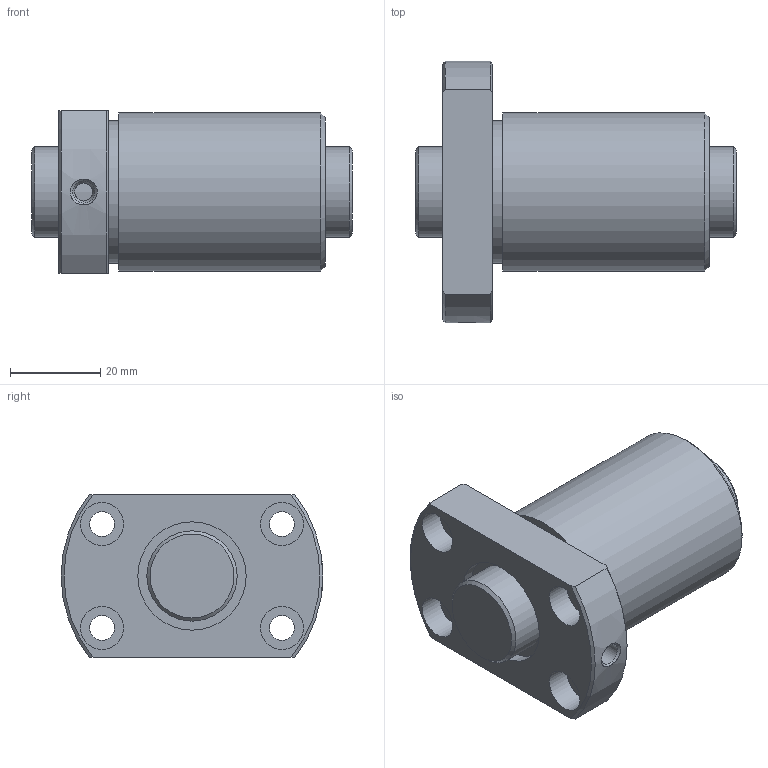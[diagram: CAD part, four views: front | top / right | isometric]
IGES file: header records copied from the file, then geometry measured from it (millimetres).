
Start section: Data from Parasolid IGES Translator 26.0.171, Copyright(c) 2006 Siemens PLM Software. All Rights Reserved.
Global section: file name: DK2006-4RRG1+71LC0_000.igs; native system: By Siemens PLM Incorporated; preprocessor: XPlus GENERIC/IGES 26.0.171; author: Noname; organization: Noname; date: 20250113.090907; units: millimetre
Bounding box: 71 x 58 x 36 mm (x, y, z)
Surface area: 20494.5 mm2 (no closed solid volume)
Topology: 0 solids, 0 shells, 41 faces, 166 edges, 133 vertices
Faces by surface type: revolution 27, extrusion 14
